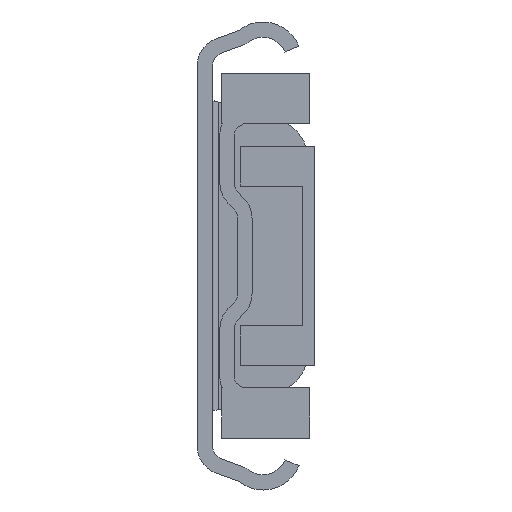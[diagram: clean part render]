
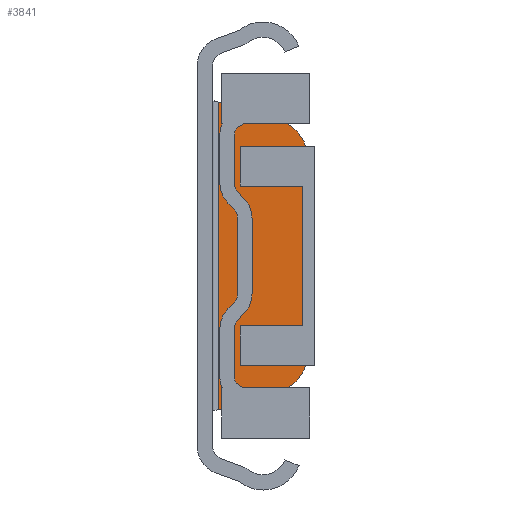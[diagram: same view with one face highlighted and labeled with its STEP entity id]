
A CAD part, front view. The second image highlights one B-rep face of the part: STEP entity #3841.
In plain terms, the highlighted planar face has unit normal (0, -1, 0).
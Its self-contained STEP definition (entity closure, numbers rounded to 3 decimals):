
#127=LINE('',#6196,#510);
#128=LINE('',#6201,#511);
#129=LINE('',#6205,#512);
#130=LINE('',#6207,#513);
#510=VECTOR('',#5060,1000.);
#511=VECTOR('',#5063,1000.);
#512=VECTOR('',#5066,1000.);
#513=VECTOR('',#5067,1000.);
#833=PLANE('',#4493);
#1179=ORIENTED_EDGE('',*,*,#2175,.F.);
#1180=ORIENTED_EDGE('',*,*,#2176,.F.);
#1181=ORIENTED_EDGE('',*,*,#2177,.F.);
#1182=ORIENTED_EDGE('',*,*,#2178,.F.);
#1183=ORIENTED_EDGE('',*,*,#2179,.F.);
#1184=ORIENTED_EDGE('',*,*,#2180,.F.);
#2175=EDGE_CURVE('',#2702,#2703,#127,.T.);
#2176=EDGE_CURVE('',#2704,#2702,#3042,.F.);
#2177=EDGE_CURVE('',#2705,#2704,#128,.T.);
#2178=EDGE_CURVE('',#2706,#2705,#3043,.F.);
#2179=EDGE_CURVE('',#2707,#2706,#129,.T.);
#2180=EDGE_CURVE('',#2703,#2707,#130,.T.);
#2702=VERTEX_POINT('',#6197);
#2703=VERTEX_POINT('',#6198);
#2704=VERTEX_POINT('',#6200);
#2705=VERTEX_POINT('',#6202);
#2706=VERTEX_POINT('',#6204);
#2707=VERTEX_POINT('',#6206);
#3042=CIRCLE('',#4494,8.);
#3043=CIRCLE('',#4495,8.);
#3265=EDGE_LOOP('',(#1179,#1180,#1181,#1182,#1183,#1184));
#3530=FACE_BOUND('',#3265,.T.);
#3841=ADVANCED_FACE('',(#3530),#833,.T.);
#4493=AXIS2_PLACEMENT_3D('',#6195,#5058,#5059);
#4494=AXIS2_PLACEMENT_3D('',#6199,#5061,#5062);
#4495=AXIS2_PLACEMENT_3D('',#6203,#5064,#5065);
#5058=DIRECTION('',(0.,-1.,0.));
#5059=DIRECTION('',(0.,0.,-1.));
#5060=DIRECTION('',(-0.966,0.,-0.259));
#5061=DIRECTION('',(0.,-1.,0.));
#5062=DIRECTION('',(0.,0.,-1.));
#5063=DIRECTION('',(0.,0.,-1.));
#5064=DIRECTION('',(0.,-1.,0.));
#5065=DIRECTION('',(0.,0.,-1.));
#5066=DIRECTION('',(0.966,0.,-0.259));
#5067=DIRECTION('',(0.,0.,1.));
#6195=CARTESIAN_POINT('',(12.9,1064.3,14.965));
#6196=CARTESIAN_POINT('',(22.316,1064.3,-20.174));
#6197=CARTESIAN_POINT('',(12.471,1064.3,-22.812));
#6198=CARTESIAN_POINT('',(3.5,1064.3,-25.216));
#6199=CARTESIAN_POINT('',(10.4,1064.3,-15.085));
#6200=CARTESIAN_POINT('',(18.4,1064.3,-15.085));
#6201=CARTESIAN_POINT('',(18.4,1064.3,14.965));
#6202=CARTESIAN_POINT('',(18.4,1064.3,15.085));
#6203=CARTESIAN_POINT('',(10.4,1064.3,15.085));
#6204=CARTESIAN_POINT('',(12.471,1064.3,22.812));
#6205=CARTESIAN_POINT('',(14.833,1064.3,22.179));
#6206=CARTESIAN_POINT('',(3.5,1064.3,25.216));
#6207=CARTESIAN_POINT('',(3.5,1064.3,-25.766));
